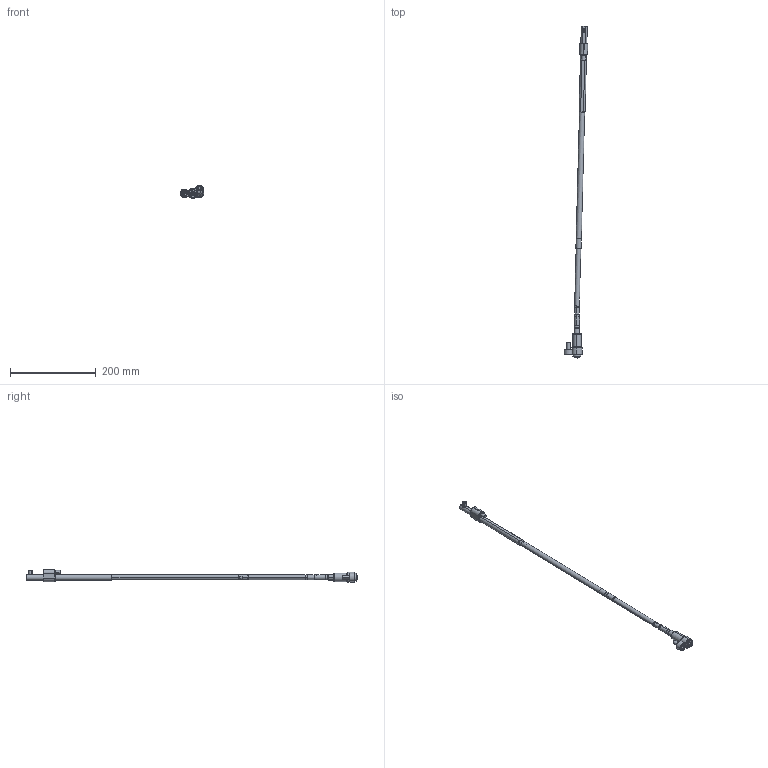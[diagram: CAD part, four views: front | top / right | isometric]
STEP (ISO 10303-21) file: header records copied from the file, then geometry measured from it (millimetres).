
FILE_DESCRIPTION (( 'STEP AP214' ), '1' );
FILE_NAME ('WL120125-EJE 1,5°.STEP', '2021-03-19T15:37:33', ( '' ), ( '' ), 'SwSTEP 2.0', 'SolidWorks 2019', '' );
FILE_SCHEMA (( 'AUTOMOTIVE_DESIGN' ));
Length unit declared in the file: millimetre
Products named in the file (17): WL120125-EJE 1,5°; Web-WL12-A3; 8WL12EJEP; Web-WL12-F01; WL120100-B; Web-WL12-A8; 3IMAN5X3-150_con sellador; Web-WL12-A1; WL120100-E; Web-WL12-XX_ON-WL120125-1,5; Web-WL12-A2; Web-WL12-F00.SLDPRT; 1DIN912820_DIN 912 M8 x 20 --- 20C; 1DIN912645_DIN 912 M6 x 45 --- 45C; WL120100-B1; 9DR2808-TOR; WL120100-D
Assembly tree (16 placements, depth 3):
  WL120125-EJE 1,5°
    Web-WL12-A8
    Web-WL12-XX_ON-WL120125-1,5
    Web-WL12-A3
    Web-WL12-A2
    Web-WL12-A1
    Web-WL12-F00.SLDPRT
      Web-WL12-F01
      1DIN912820_DIN 912 M8 x 20 --- 20C
      1DIN912645_DIN 912 M6 x 45 --- 45C
    WL120100-D
    8WL12EJEP
    WL120100-E
    9DR2808-TOR
    WL120100-B
      WL120100-B1
      3IMAN5X3-150_con sellador
Bounding box: 54.45 x 772.96 x 29.9 mm (x, y, z)
Volume: 116548.8 mm3; surface area: 51030.1 mm2
Topology: 15 solids, 15 shells, 432 faces, 906 edges, 525 vertices
Faces by surface type: plane 139, cylinder 123, cone 120, torus 50
Entity records: 13661 total; most frequent: DIRECTION 2240, CARTESIAN_POINT 2104, ORIENTED_EDGE 1788, AXIS2_PLACEMENT_3D 929, EDGE_CURVE 894, VERTEX_POINT 525, EDGE_LOOP 477, CIRCLE 476
